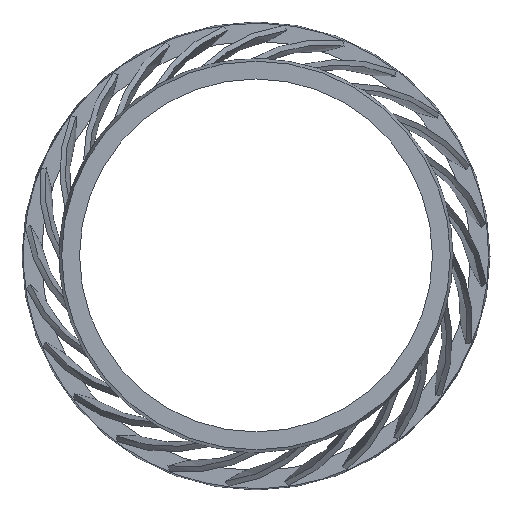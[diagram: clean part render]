
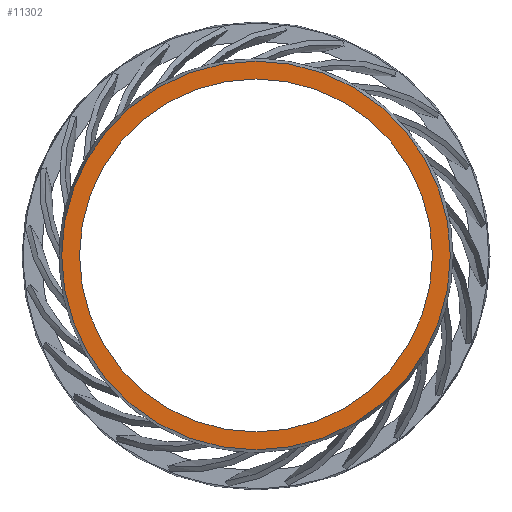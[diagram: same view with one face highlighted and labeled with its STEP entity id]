
A CAD part, top view. The second image highlights one B-rep face of the part: STEP entity #11302.
In plain terms, the highlighted planar face has unit normal (0, 0, 1).
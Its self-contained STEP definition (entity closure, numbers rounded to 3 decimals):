
#11011 = CONICAL_SURFACE('',#11012,86.027,0.16);
#11012 = AXIS2_PLACEMENT_3D('',#11013,#11014,#11015);
#11013 = CARTESIAN_POINT('',(0.,0.,383.));
#11014 = DIRECTION('',(-0.,-0.,-1.));
#11015 = DIRECTION('',(1.,0.,-0.));
#11126 = CONICAL_SURFACE('',#11127,77.1,0.16);
#11127 = AXIS2_PLACEMENT_3D('',#11128,#11129,#11130);
#11128 = CARTESIAN_POINT('',(0.,0.,390.));
#11129 = DIRECTION('',(-0.,-0.,-1.));
#11130 = DIRECTION('',(1.,0.,0.));
#11203 = VERTEX_POINT('',#11204);
#11204 = CARTESIAN_POINT('',(84.9,0.,390.));
#11225 = EDGE_CURVE('',#11203,#11203,#11226,.T.);
#11226 = SURFACE_CURVE('',#11227,(#11232,#11239),.PCURVE_S1.);
#11227 = CIRCLE('',#11228,84.9);
#11228 = AXIS2_PLACEMENT_3D('',#11229,#11230,#11231);
#11229 = CARTESIAN_POINT('',(0.,0.,390.));
#11230 = DIRECTION('',(0.,0.,1.));
#11231 = DIRECTION('',(1.,0.,-0.));
#11232 = PCURVE('',#11011,#11233);
#11233 = DEFINITIONAL_REPRESENTATION('',(#11234),#11238);
#11234 = LINE('',#11235,#11236);
#11235 = CARTESIAN_POINT('',(-0.,-7.));
#11236 = VECTOR('',#11237,1.);
#11237 = DIRECTION('',(-1.,-0.));
#11238 = ( GEOMETRIC_REPRESENTATION_CONTEXT(2) 
PARAMETRIC_REPRESENTATION_CONTEXT() REPRESENTATION_CONTEXT('2D SPACE',''
  ) );
#11239 = PCURVE('',#11240,#11245);
#11240 = PLANE('',#11241);
#11241 = AXIS2_PLACEMENT_3D('',#11242,#11243,#11244);
#11242 = CARTESIAN_POINT('',(0.,0.,390.));
#11243 = DIRECTION('',(0.,0.,1.));
#11244 = DIRECTION('',(1.,0.,-0.));
#11245 = DEFINITIONAL_REPRESENTATION('',(#11246),#11250);
#11246 = CIRCLE('',#11247,84.9);
#11247 = AXIS2_PLACEMENT_2D('',#11248,#11249);
#11248 = CARTESIAN_POINT('',(0.,0.));
#11249 = DIRECTION('',(1.,0.));
#11250 = ( GEOMETRIC_REPRESENTATION_CONTEXT(2) 
PARAMETRIC_REPRESENTATION_CONTEXT() REPRESENTATION_CONTEXT('2D SPACE',''
  ) );
#11256 = EDGE_CURVE('',#11257,#11257,#11259,.T.);
#11257 = VERTEX_POINT('',#11258);
#11258 = CARTESIAN_POINT('',(77.1,0.,390.));
#11259 = SURFACE_CURVE('',#11260,(#11265,#11272),.PCURVE_S1.);
#11260 = CIRCLE('',#11261,77.1);
#11261 = AXIS2_PLACEMENT_3D('',#11262,#11263,#11264);
#11262 = CARTESIAN_POINT('',(0.,0.,390.));
#11263 = DIRECTION('',(0.,0.,1.));
#11264 = DIRECTION('',(1.,0.,-0.));
#11265 = PCURVE('',#11126,#11266);
#11266 = DEFINITIONAL_REPRESENTATION('',(#11267),#11271);
#11267 = LINE('',#11268,#11269);
#11268 = CARTESIAN_POINT('',(-0.,0.));
#11269 = VECTOR('',#11270,1.);
#11270 = DIRECTION('',(-1.,0.));
#11271 = ( GEOMETRIC_REPRESENTATION_CONTEXT(2) 
PARAMETRIC_REPRESENTATION_CONTEXT() REPRESENTATION_CONTEXT('2D SPACE',''
  ) );
#11272 = PCURVE('',#11240,#11273);
#11273 = DEFINITIONAL_REPRESENTATION('',(#11274),#11278);
#11274 = CIRCLE('',#11275,77.1);
#11275 = AXIS2_PLACEMENT_2D('',#11276,#11277);
#11276 = CARTESIAN_POINT('',(0.,0.));
#11277 = DIRECTION('',(1.,0.));
#11278 = ( GEOMETRIC_REPRESENTATION_CONTEXT(2) 
PARAMETRIC_REPRESENTATION_CONTEXT() REPRESENTATION_CONTEXT('2D SPACE',''
  ) );
#11302 = ADVANCED_FACE('',(#11303,#11306),#11240,.T.);
#11303 = FACE_BOUND('',#11304,.T.);
#11304 = EDGE_LOOP('',(#11305));
#11305 = ORIENTED_EDGE('',*,*,#11225,.T.);
#11306 = FACE_BOUND('',#11307,.T.);
#11307 = EDGE_LOOP('',(#11308));
#11308 = ORIENTED_EDGE('',*,*,#11256,.F.);
